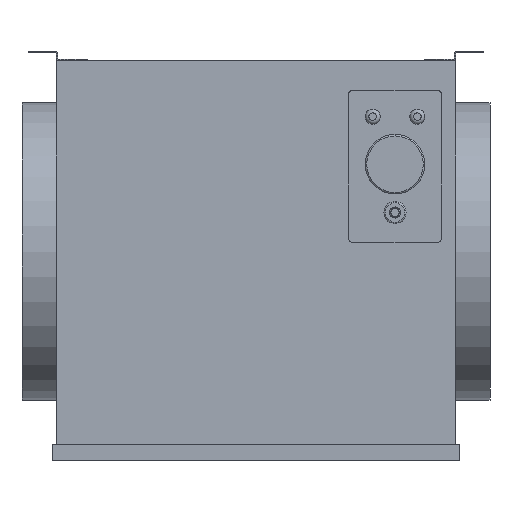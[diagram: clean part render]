
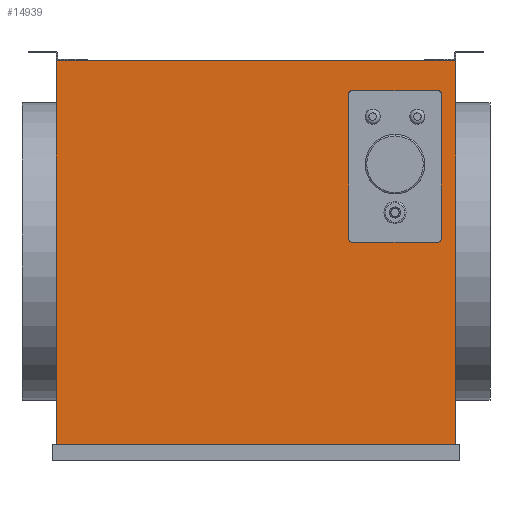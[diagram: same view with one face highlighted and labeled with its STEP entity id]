
A CAD part, left-side view. The second image highlights one B-rep face of the part: STEP entity #14939.
In plain terms, the highlighted planar face has unit normal (-1, 0, 0).
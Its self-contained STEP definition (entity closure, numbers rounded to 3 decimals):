
#167=CIRCLE('',#15513,4.);
#169=CIRCLE('',#15517,4.);
#171=CIRCLE('',#15521,4.);
#173=CIRCLE('',#15524,4.);
#320=FACE_BOUND('',#2326,.T.);
#1478=FACE_OUTER_BOUND('',#2325,.T.);
#2325=EDGE_LOOP('',(#13522,#13523,#13524,#13525));
#2326=EDGE_LOOP('',(#13526,#13527,#13528,#13529,#13530,#13531,#13532,#13533));
#3580=LINE('',#31143,#4855);
#3587=LINE('',#31161,#4862);
#3591=LINE('',#31176,#4866);
#3593=LINE('',#31179,#4868);
#3598=LINE('',#31205,#4873);
#3599=LINE('',#31208,#4874);
#3600=LINE('',#31210,#4875);
#3601=LINE('',#31211,#4876);
#4855=VECTOR('',#17884,10.);
#4862=VECTOR('',#17899,10.);
#4866=VECTOR('',#17917,10.);
#4868=VECTOR('',#17921,10.);
#4873=VECTOR('',#17952,10.);
#4874=VECTOR('',#17955,10.);
#4875=VECTOR('',#17956,10.);
#4876=VECTOR('',#17957,10.);
#7043=VERTEX_POINT('',#31136);
#7044=VERTEX_POINT('',#31138);
#7045=VERTEX_POINT('',#31142);
#7049=VERTEX_POINT('',#31151);
#7050=VERTEX_POINT('',#31153);
#7052=VERTEX_POINT('',#31159);
#7054=VERTEX_POINT('',#31165);
#7056=VERTEX_POINT('',#31171);
#7063=VERTEX_POINT('',#31201);
#7064=VERTEX_POINT('',#31203);
#7065=VERTEX_POINT('',#31207);
#7066=VERTEX_POINT('',#31209);
#9201=EDGE_CURVE('',#7044,#7043,#167,.T.);
#9203=EDGE_CURVE('',#7045,#7044,#3580,.T.);
#9208=EDGE_CURVE('',#7050,#7049,#169,.T.);
#9212=EDGE_CURVE('',#7049,#7052,#3587,.T.);
#9215=EDGE_CURVE('',#7052,#7054,#171,.T.);
#9217=EDGE_CURVE('',#7056,#7045,#173,.T.);
#9220=EDGE_CURVE('',#7043,#7050,#3591,.T.);
#9222=EDGE_CURVE('',#7054,#7056,#3593,.T.);
#9233=EDGE_CURVE('',#7063,#7064,#3598,.T.);
#9234=EDGE_CURVE('',#7063,#7065,#3599,.T.);
#9235=EDGE_CURVE('',#7066,#7064,#3600,.T.);
#9236=EDGE_CURVE('',#7065,#7066,#3601,.T.);
#13522=ORIENTED_EDGE('',*,*,#9234,.F.);
#13523=ORIENTED_EDGE('',*,*,#9233,.T.);
#13524=ORIENTED_EDGE('',*,*,#9235,.F.);
#13525=ORIENTED_EDGE('',*,*,#9236,.F.);
#13526=ORIENTED_EDGE('',*,*,#9208,.T.);
#13527=ORIENTED_EDGE('',*,*,#9212,.T.);
#13528=ORIENTED_EDGE('',*,*,#9215,.T.);
#13529=ORIENTED_EDGE('',*,*,#9222,.T.);
#13530=ORIENTED_EDGE('',*,*,#9217,.T.);
#13531=ORIENTED_EDGE('',*,*,#9203,.T.);
#13532=ORIENTED_EDGE('',*,*,#9201,.T.);
#13533=ORIENTED_EDGE('',*,*,#9220,.T.);
#13926=PLANE('',#15540);
#14939=ADVANCED_FACE('',(#1478,#320),#13926,.T.);
#15513=AXIS2_PLACEMENT_3D('',#31139,#17879,#17880);
#15517=AXIS2_PLACEMENT_3D('',#31154,#17892,#17893);
#15521=AXIS2_PLACEMENT_3D('',#31167,#17905,#17906);
#15524=AXIS2_PLACEMENT_3D('',#31172,#17911,#17912);
#15540=AXIS2_PLACEMENT_3D('',#31206,#17953,#17954);
#17879=DIRECTION('center_axis',(1.,0.,0.));
#17880=DIRECTION('ref_axis',(0.,-0.707,-0.707));
#17884=DIRECTION('',(0.,0.,-1.));
#17892=DIRECTION('center_axis',(1.,0.,0.));
#17893=DIRECTION('ref_axis',(0.,0.707,-0.707));
#17899=DIRECTION('',(0.,0.,1.));
#17905=DIRECTION('center_axis',(1.,0.,0.));
#17906=DIRECTION('ref_axis',(0.,0.707,0.707));
#17911=DIRECTION('center_axis',(1.,0.,0.));
#17912=DIRECTION('ref_axis',(0.,-0.707,0.707));
#17917=DIRECTION('',(0.,1.,0.));
#17921=DIRECTION('',(0.,-1.,0.));
#17952=DIRECTION('',(0.,0.,1.));
#17953=DIRECTION('center_axis',(-1.,0.,0.));
#17954=DIRECTION('ref_axis',(0.,-1.,0.));
#17955=DIRECTION('',(0.,1.,0.));
#17956=DIRECTION('',(0.,-1.,0.));
#17957=DIRECTION('',(0.,0.,1.));
#31136=CARTESIAN_POINT('',(-329.682,-259.631,25.));
#31138=CARTESIAN_POINT('',(-329.682,-263.631,29.));
#31139=CARTESIAN_POINT('Origin',(-329.682,-259.631,29.));
#31142=CARTESIAN_POINT('',(-329.682,-263.631,225.));
#31143=CARTESIAN_POINT('',(-329.682,-263.631,-9.));
#31151=CARTESIAN_POINT('',(-329.682,-139.631,29.));
#31153=CARTESIAN_POINT('',(-329.682,-143.631,25.));
#31154=CARTESIAN_POINT('Origin',(-329.682,-143.631,29.));
#31159=CARTESIAN_POINT('',(-329.682,-139.631,225.));
#31161=CARTESIAN_POINT('',(-329.682,-139.631,-111.));
#31165=CARTESIAN_POINT('',(-329.682,-143.631,229.));
#31167=CARTESIAN_POINT('Origin',(-329.682,-143.631,225.));
#31171=CARTESIAN_POINT('',(-329.682,-259.631,229.));
#31172=CARTESIAN_POINT('Origin',(-329.682,-259.631,225.));
#31176=CARTESIAN_POINT('',(-329.682,-4.631,25.));
#31179=CARTESIAN_POINT('',(-329.682,57.369,229.));
#31201=CARTESIAN_POINT('',(-329.682,-283.631,-247.));
#31203=CARTESIAN_POINT('',(-329.682,-283.631,269.));
#31205=CARTESIAN_POINT('',(-329.682,-283.631,-247.));
#31206=CARTESIAN_POINT('Origin',(-329.682,254.369,-247.));
#31207=CARTESIAN_POINT('',(-329.682,254.369,-247.));
#31208=CARTESIAN_POINT('',(-329.682,119.869,-247.));
#31209=CARTESIAN_POINT('',(-329.682,254.369,269.));
#31210=CARTESIAN_POINT('',(-329.682,254.369,269.));
#31211=CARTESIAN_POINT('',(-329.682,254.369,-247.));
